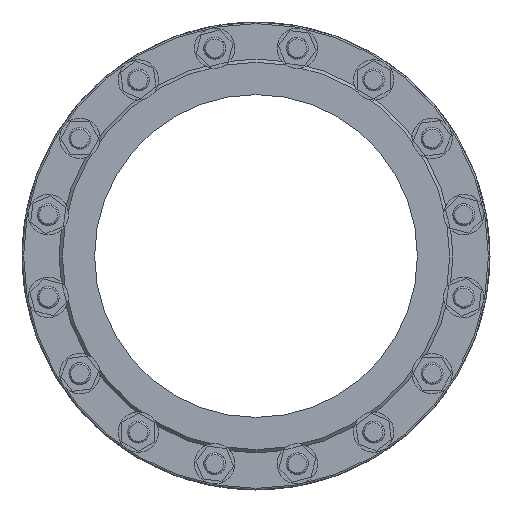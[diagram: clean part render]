
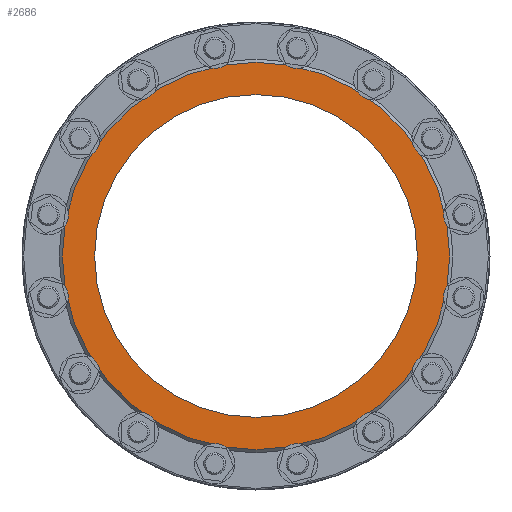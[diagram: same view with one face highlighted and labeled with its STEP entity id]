
A CAD part, left-side view. The second image highlights one B-rep face of the part: STEP entity #2686.
In plain terms, the highlighted planar face has unit normal (-1, 0, 0).
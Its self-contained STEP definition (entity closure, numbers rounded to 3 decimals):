
#94 = PLANE ( 'NONE',  #17214 ) ;
#1193 = CARTESIAN_POINT ( 'NONE',  ( -65., 0., -200. ) ) ;
#2643 = DIRECTION ( 'NONE',  ( 1., 0., 0. ) ) ;
#2686 = ADVANCED_FACE ( 'NONE', ( #20342, #16309 ), #94, .F. ) ;
#3063 = DIRECTION ( 'NONE',  ( -1., 0., 0. ) ) ;
#3203 = CARTESIAN_POINT ( 'NONE',  ( -65., 0., 0. ) ) ;
#4331 = AXIS2_PLACEMENT_3D ( 'NONE', #14718, #2643, #10822 ) ;
#4337 = EDGE_CURVE ( 'NONE', #17096, #17096, #21157, .T. ) ;
#5212 = DIRECTION ( 'NONE',  ( 0., -1., 0. ) ) ;
#7061 = ORIENTED_EDGE ( 'NONE', *, *, #18083, .T. ) ;
#8266 = CARTESIAN_POINT ( 'NONE',  ( -65., 0., 200. ) ) ;
#10822 = DIRECTION ( 'NONE',  ( 0., 0., -1. ) ) ;
#12686 = EDGE_LOOP ( 'NONE', ( #25509 ) ) ;
#13448 = AXIS2_PLACEMENT_3D ( 'NONE', #3203, #3063, #5212 ) ;
#14718 = CARTESIAN_POINT ( 'NONE',  ( -65., 0., 0. ) ) ;
#16309 = FACE_OUTER_BOUND ( 'NONE', #12686, .T. ) ;
#16580 = DIRECTION ( 'NONE',  ( 1., 0., 0. ) ) ;
#17096 = VERTEX_POINT ( 'NONE', #23255 ) ;
#17213 = EDGE_LOOP ( 'NONE', ( #7061 ) ) ;
#17214 = AXIS2_PLACEMENT_3D ( 'NONE', #8266, #16580, #24465 ) ;
#18083 = EDGE_CURVE ( 'NONE', #21556, #21556, #23573, .T. ) ;
#20342 = FACE_BOUND ( 'NONE', #17213, .T. ) ;
#21157 = CIRCLE ( 'NONE', #13448, 240. ) ;
#21556 = VERTEX_POINT ( 'NONE', #1193 ) ;
#23255 = CARTESIAN_POINT ( 'NONE',  ( -65., -240., 0. ) ) ;
#23573 = CIRCLE ( 'NONE', #4331, 200. ) ;
#24465 = DIRECTION ( 'NONE',  ( 0., 1., 0. ) ) ;
#25509 = ORIENTED_EDGE ( 'NONE', *, *, #4337, .T. ) ;
